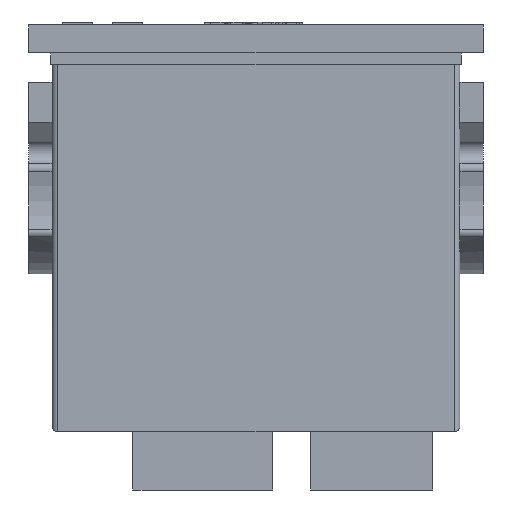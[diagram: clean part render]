
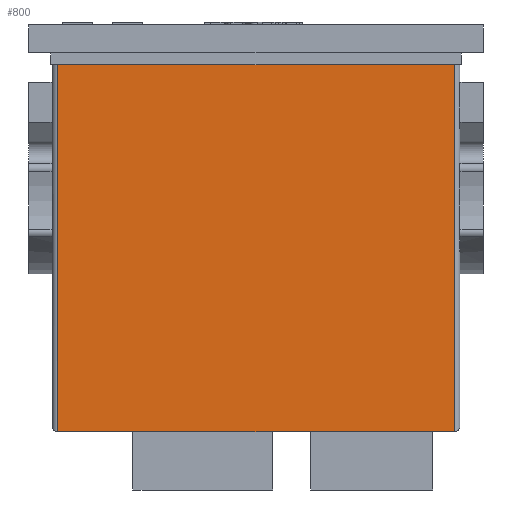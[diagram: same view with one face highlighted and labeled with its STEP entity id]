
A CAD part, front view. The second image highlights one B-rep face of the part: STEP entity #800.
In plain terms, the highlighted planar face has unit normal (0, -1, 0).
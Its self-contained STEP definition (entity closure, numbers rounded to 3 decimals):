
#800=ADVANCED_FACE('',(#3029),#3031,.T.);
#3029=FACE_BOUND('',#3030,.T.);
#3030=EDGE_LOOP('',(#4847,#4848,#4849,#4850));
#3031=PLANE('',#3032);
#3032=AXIS2_PLACEMENT_3D('',#3033,#3034,#3035);
#3033=CARTESIAN_POINT('',(0.,-14.1,0.));
#3034=DIRECTION('',(0.,-1.,0.));
#3035=DIRECTION('',(0.,0.,-1.));
#4847=ORIENTED_EDGE('',*,*,#5840,.F.);
#4848=ORIENTED_EDGE('',*,*,#5837,.T.);
#4849=ORIENTED_EDGE('',*,*,#5988,.F.);
#4850=ORIENTED_EDGE('',*,*,#5834,.T.);
#5834=EDGE_CURVE('',#6642,#6640,#6643,.T.);
#5837=EDGE_CURVE('',#6647,#6645,#6648,.T.);
#5840=EDGE_CURVE('',#6647,#6640,#6651,.T.);
#5988=EDGE_CURVE('',#6642,#6645,#6941,.T.);
#6640=VERTEX_POINT('',#8214);
#6642=VERTEX_POINT('',#8219);
#6643=LINE('',#8220,#8221);
#6645=VERTEX_POINT('',#8227);
#6647=VERTEX_POINT('',#8232);
#6648=LINE('',#8233,#8234);
#6651=LINE('',#8243,#8244);
#6941=LINE('',#8858,#8859);
#8214=CARTESIAN_POINT('',(34.,-14.1,-2.));
#8219=CARTESIAN_POINT('',(34.,-14.1,-65.));
#8220=CARTESIAN_POINT('',(34.,-14.1,-65.));
#8221=VECTOR('',#8222,1.);
#8222=DIRECTION('',(0.,0.,1.));
#8227=CARTESIAN_POINT('',(-34.,-14.1,-65.));
#8232=CARTESIAN_POINT('',(-34.,-14.1,-2.));
#8233=CARTESIAN_POINT('',(-34.,-14.1,-2.));
#8234=VECTOR('',#8235,1.);
#8235=DIRECTION('',(0.,0.,-1.));
#8243=CARTESIAN_POINT('',(-34.,-14.1,-2.));
#8244=VECTOR('',#8245,1.);
#8245=DIRECTION('',(1.,0.,0.));
#8858=CARTESIAN_POINT('',(34.,-14.1,-65.));
#8859=VECTOR('',#8860,1.);
#8860=DIRECTION('',(-1.,0.,0.));
